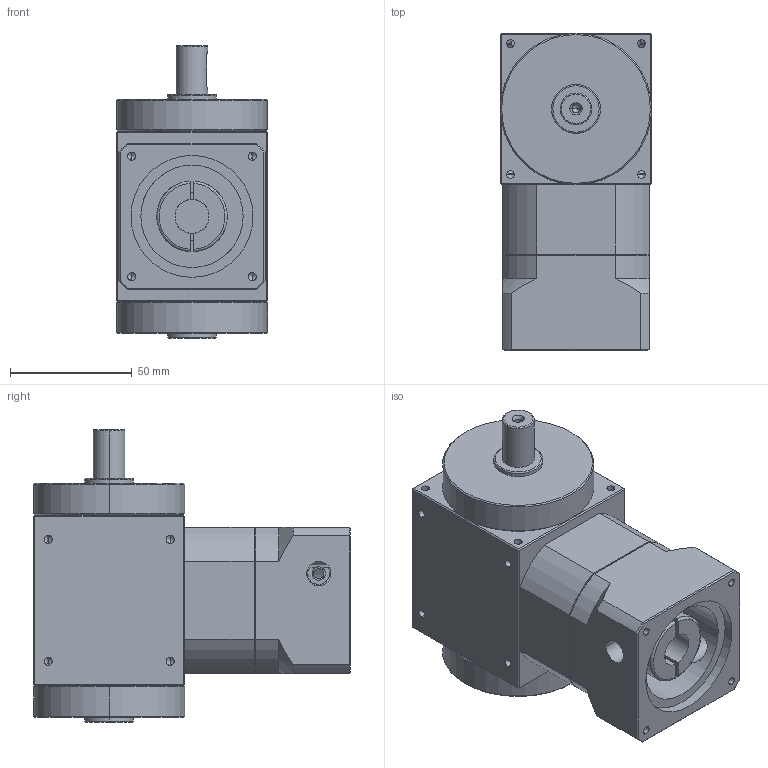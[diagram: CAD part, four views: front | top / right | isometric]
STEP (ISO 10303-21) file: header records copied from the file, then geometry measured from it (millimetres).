
FILE_DESCRIPTION (( 'STEP AP203' ), '1' );
FILE_NAME ('KHT60-S1-L1£r50PCD£r70M4.STEP', '2014-03-24T03:18:34', ( 'KELLY' ), ( '' ), 'SwSTEP 2.0', 'SolidWorks 2012', '' );
FILE_SCHEMA (( 'CONFIG_CONTROL_DESIGN' ));
Length unit declared in the file: millimetre
Products named in the file (1): KHT60-S1-L1｣r50PCD｣r70M4
Bounding box: 62 x 130 x 120 mm (x, y, z)
Volume: 537208.9 mm3; surface area: 77805.6 mm2
Topology: 6 solids, 6 shells, 274 faces, 685 edges, 382 vertices
Faces by surface type: cylinder 117, plane 75, cone 72, torus 10
Entity records: 8716 total; most frequent: CARTESIAN_POINT 2415, DIRECTION 1316, ORIENTED_EDGE 1270, EDGE_CURVE 635, AXIS2_PLACEMENT_3D 510, VERTEX_POINT 382, EDGE_LOOP 319, LINE 296
